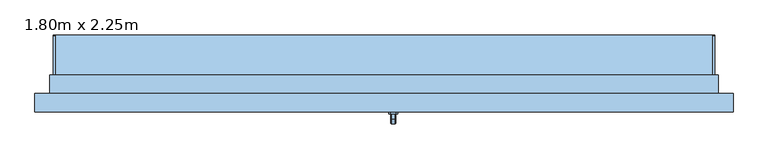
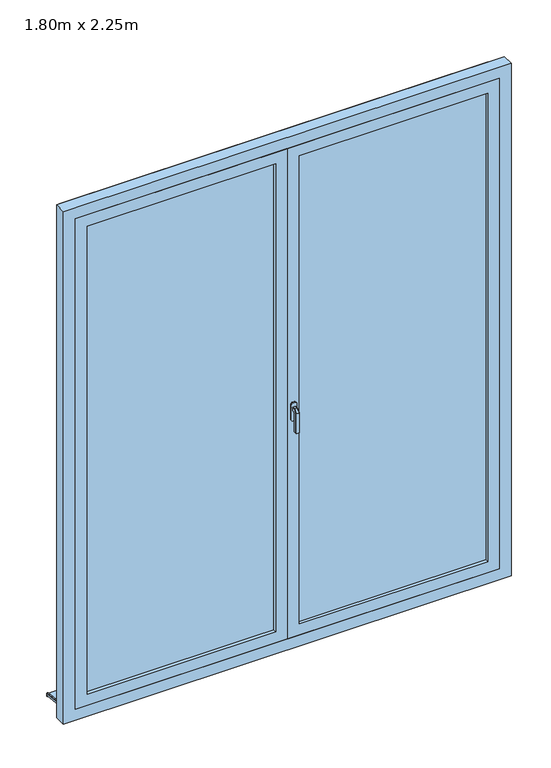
"""IFC4 building model written with IfcOpenShell, lengths in millimetres: window geometry, PF 2 Vantaux - Droits : 1.80m x 2.25m."""

import ifcopenshell
import ifcopenshell.guid

model = None  # the IFC model being written
_history = None  # IfcOwnerHistory: only IFC2X3 demands one
_inside = {}  # id of a spatial element -> (the spatial element, [elements in it])
_under = {}  # id of a project, library or spatial element -> (it, [spatial elements below it])
_declared = {}  # id of a project -> (the project, [libraries it declares])
_typed = {}  # id of a type object -> (the type object, [elements of that type])
_made_of = {}  # id of a material, layer set ... -> (it, [elements and type objects made of it])


def new_model(schema):
    """Start an empty IFC model of exactly this schema.

    Asked for "IFC4X3", IfcOpenShell would pick the latest addendum, in which some entities
    have other attributes; the version numbers below select the first issue.
    IFC2X3 requires an IfcOwnerHistory on every rooted entity: one is made here for all.
    """
    global model, _history
    if schema == "IFC4X3":
        model = ifcopenshell.file(schema_version=(4, 3, 0, 0))
    else:
        model = ifcopenshell.file(schema=schema)
    _inside.clear()
    _under.clear()
    _declared.clear()
    _typed.clear()
    _made_of.clear()
    _history = None
    if model.schema == "IFC2X3":
        org = make("IfcOrganization", Name="unknown")
        user = make(
            "IfcPersonAndOrganization",
            ThePerson=make("IfcPerson", FamilyName="unknown"),
            TheOrganization=org,
        )
        app = make(
            "IfcApplication",
            ApplicationDeveloper=org,
            Version="unknown",
            ApplicationFullName="unknown",
            ApplicationIdentifier="unknown",
        )
        _history = make(
            "IfcOwnerHistory",
            OwningUser=user,
            OwningApplication=app,
            ChangeAction="ADDED",
            CreationDate=0,
        )
    return model


def make(cls, **values):
    """One entity of the class cls with the attributes given. An attribute that is None is left unset."""
    return model.create_entity(
        cls, **{name: value for name, value in values.items() if value is not None}
    )


def rooted(cls, **values):
    """An entity with a GlobalId (a new one), such as an element, a storey or a relation."""
    return make(cls, GlobalId=ifcopenshell.guid.new(), OwnerHistory=_history, **values)


def si_unit(unit_type, name, prefix=None):
    """IfcSIUnit, for example si_unit("LENGTHUNIT", "METRE", prefix="MILLI")."""
    return make("IfcSIUnit", UnitType=unit_type, Prefix=prefix, Name=name)


def assignment(units):
    """IfcUnitAssignment: the units of a project."""
    return None if units is None else make("IfcUnitAssignment", Units=units)


def point(xyz):
    """IfcCartesianPoint."""
    return None if xyz is None else make("IfcCartesianPoint", Coordinates=xyz)


def direction(xyz):
    """IfcDirection."""
    return None if xyz is None else make("IfcDirection", DirectionRatios=xyz)


def frame(location, z_axis=None, x_axis=None):
    """IfcAxis2Placement3D, a coordinate frame: its origin and axes. An axis left out is left unset."""
    return make(
        "IfcAxis2Placement3D",
        Location=point(location),
        Axis=direction(z_axis),
        RefDirection=direction(x_axis),
    )


def frame_2d(location, x_axis=None):
    """IfcAxis2Placement2D, a coordinate frame in the plane: its origin and x axis."""
    return make(
        "IfcAxis2Placement2D", Location=point(location), RefDirection=direction(x_axis)
    )


def origin():
    """The frame at (0, 0, 0) with its axes left unset."""
    return frame((0.0, 0.0, 0.0))


def place(relative_to, where):
    """IfcLocalPlacement: puts the frame where relative to a parent placement (None: the world)."""
    return make(
        "IfcLocalPlacement", PlacementRelTo=relative_to, RelativePlacement=where
    )


def context(
    kind, dimensions, precision=None, world=None, true_north=None, identifier=None
):
    """IfcGeometricRepresentationContext, for example the 3D "Model" context."""
    return make(
        "IfcGeometricRepresentationContext",
        ContextIdentifier=identifier,
        ContextType=kind,
        CoordinateSpaceDimension=dimensions,
        Precision=precision,
        WorldCoordinateSystem=world,
        TrueNorth=true_north,
    )


def project(units=None, contexts=None):
    """IfcProject with its units and contexts."""
    return rooted(
        "IfcProject",
        Name="project",
        RepresentationContexts=contexts,
        UnitsInContext=assignment(units),
    )


def spatial(cls, under=None, at=None, **own):
    """A site, building, storey or space (cls), placed at a placement, below another one or the project."""
    s = rooted(cls, ObjectPlacement=at, **own)
    if under is not None:
        _under.setdefault(under.id(), (under, []))[1].append(s)
    return s


def polyline(points):
    """IfcPolyline through the points."""
    return make("IfcPolyline", Points=[point(p) for p in points])


def circle_curve(where, radius):
    """IfcCircle in the frame where."""
    return make("IfcCircle", Position=where, Radius=radius)


def trimmed(basis, trim1, trim2, sense, master):
    """IfcTrimmedCurve: the piece of a basis curve between two trims."""
    return make(
        "IfcTrimmedCurve",
        BasisCurve=basis,
        Trim1=trim1,
        Trim2=trim2,
        SenseAgreement=sense,
        MasterRepresentation=master,
    )


def segment(curve, same_sense, transition):
    """IfcCompositeCurveSegment."""
    return make(
        "IfcCompositeCurveSegment",
        Transition=transition,
        SameSense=same_sense,
        ParentCurve=curve,
    )


def composite_curve(segments, self_intersect=None):
    """IfcCompositeCurve: segments joined end to end."""
    return make("IfcCompositeCurve", Segments=segments, SelfIntersect=self_intersect)


def outline(outer, holes=None, kind="AREA"):
    """IfcArbitraryClosedProfileDef: a profile drawn as a closed curve; with holes, ...WithVoids."""
    if holes is None:
        return make("IfcArbitraryClosedProfileDef", ProfileType=kind, OuterCurve=outer)
    return make(
        "IfcArbitraryProfileDefWithVoids",
        ProfileType=kind,
        OuterCurve=outer,
        InnerCurves=holes,
    )


def extrude(swept, where, along, depth):
    """IfcExtrudedAreaSolid: the profile swept, set in the frame where, extruded along a direction by depth."""
    return make(
        "IfcExtrudedAreaSolid",
        SweptArea=swept,
        Position=where,
        ExtrudedDirection=direction(along),
        Depth=depth,
    )


def faces_of(points, faces, orient=None, outer=None):
    """IfcFace entities. A face is a list of loops; a loop is a list of indices into points, from 0.

    orient and outer hold one flag for each loop. By default every Orientation is true, the
    first loop of a face is its IfcFaceOuterBound and the others are IfcFaceBound.
    """
    made = []
    for i, loops in enumerate(faces):
        bounds = []
        for j, loop in enumerate(loops):
            is_outer = j == 0 if outer is None else outer[i][j]
            bounds.append(
                make(
                    "IfcFaceOuterBound" if is_outer else "IfcFaceBound",
                    Bound=make("IfcPolyLoop", Polygon=[points[k] for k in loop]),
                    Orientation=True if orient is None else orient[i][j],
                )
            )
        made.append(make("IfcFace", Bounds=bounds))
    return made


def faceted_brep(points, faces, orient=None, outer=None, voids=None):
    """IfcFacetedBrep: a solid bounded by flat faces; with voids (closed shells), ...WithVoids."""
    shared = [point(p) for p in points]
    hull = make("IfcClosedShell", CfsFaces=faces_of(shared, faces, orient, outer))
    if voids is None:
        return make("IfcFacetedBrep", Outer=hull)
    return make(
        "IfcFacetedBrepWithVoids",
        Outer=hull,
        Voids=[
            make(cls, CfsFaces=faces_of(shared, fs, o, b)) for cls, fs, o, b in voids
        ],
    )


def shape(context_of_items, identifier, shape_type, items):
    """IfcShapeRepresentation: the items that make up one representation, for example the "Body"."""
    return make(
        "IfcShapeRepresentation",
        ContextOfItems=context_of_items,
        RepresentationIdentifier=identifier,
        RepresentationType=shape_type,
        Items=items,
    )


def source(mapping_origin, context_of_items, identifier, shape_type, items):
    """IfcRepresentationMap: a shape defined once, which mapped items show again and again."""
    return make(
        "IfcRepresentationMap",
        MappingOrigin=mapping_origin,
        MappedRepresentation=shape(context_of_items, identifier, shape_type, items),
    )


def transform(
    local_origin,
    x_axis=None,
    y_axis=None,
    z_axis=None,
    scale=None,
    scale2=None,
    scale3=None,
    uniform=True,
):
    """IfcCartesianTransformationOperator3D, or its non-uniform kind. x_axis, y_axis, z_axis: its Axis1, 2, 3."""
    if uniform:
        return make(
            "IfcCartesianTransformationOperator3D",
            Axis1=direction(x_axis),
            Axis2=direction(y_axis),
            LocalOrigin=point(local_origin),
            Scale=scale,
            Axis3=direction(z_axis),
        )
    return make(
        "IfcCartesianTransformationOperator3DnonUniform",
        Axis1=direction(x_axis),
        Axis2=direction(y_axis),
        LocalOrigin=point(local_origin),
        Scale=scale,
        Axis3=direction(z_axis),
        Scale2=scale2,
        Scale3=scale3,
    )


def mapped(mapping_source, mapping_target):
    """IfcMappedItem: shows the shape of a source again, moved by a transform."""
    return make(
        "IfcMappedItem", MappingSource=mapping_source, MappingTarget=mapping_target
    )


def made_of(thing, what):
    """Note that an element or type object is made of a material, layer set ...; save() writes the relation."""
    if what is not None:
        _made_of.setdefault(what.id(), (what, []))[1].append(thing)
    return thing


def element(
    cls,
    number,
    at=None,
    inside=None,
    cuts=None,
    type_object=None,
    material=None,
    context=None,
    identifier="Body",
    shape_type=None,
    held_by="IfcProductDefinitionShape",
    body=None,
    shapes=None,
    **own,
):
    """One element of the class cls, such as IfcWall. Its Tag is "e" and its number.

    at: its placement. inside: the storey or other place that contains it. cuts: it is an
    opening in that element (IfcRelVoidsElement). A single representation is given by context,
    identifier, shape_type and body (its items); several are given by shapes. held_by: the class
    of the entity that holds the representations. save() writes the other relations.
    """
    e = rooted(cls, Tag="e%d" % number, ObjectPlacement=at, **own)
    if body is not None:
        shapes = [shape(context, identifier, shape_type, body)]
    if shapes is not None:
        e.Representation = make(held_by, Representations=shapes)
    if inside is not None:
        _inside.setdefault(inside.id(), (inside, []))[1].append(e)
    if cuts is not None:
        rooted(
            "IfcRelVoidsElement", RelatingBuildingElement=cuts, RelatedOpeningElement=e
        )
    if type_object is not None:
        _typed.setdefault(type_object.id(), (type_object, []))[1].append(e)
    return made_of(e, material)


def aggregate(whole, parts):
    """IfcRelAggregates: a whole, such as a stair, and the parts it consists of."""
    return rooted("IfcRelAggregates", RelatingObject=whole, RelatedObjects=parts)


def save(model, path):
    """Write the relations noted so far, then the file.

    IfcRelAggregates (storeys below a building ...), IfcRelContainedInSpatialStructure (elements
    in a storey), IfcRelDefinesByType, IfcRelAssociatesMaterial and IfcRelDeclares: one each for
    every whole, place, type object, material and project.
    """
    for whole, parts in _under.values():
        aggregate(whole, parts)
    for where, things in _inside.values():
        rooted(
            "IfcRelContainedInSpatialStructure",
            RelatedElements=things,
            RelatingStructure=where,
        )
    for kind, things in _typed.values():
        rooted("IfcRelDefinesByType", RelatedObjects=things, RelatingType=kind)
    for what, things in _made_of.values():
        rooted("IfcRelAssociatesMaterial", RelatedObjects=things, RelatingMaterial=what)
    for by, libraries in _declared.values():
        rooted("IfcRelDeclares", RelatingContext=by, RelatedDefinitions=libraries)
    model.write(path)


def window_1_80m_x_2_25m_241c93e5(model_context):
    return source(origin(), model_context, "Body", "SolidModel", [
        faceted_brep([(30.6460097, -106.0, 1122.0339292), (32.0339292, -106.0, 1120.6460097), (32.0339292, -106.0, 1109.3323012), (30.6676988, -106.0, 1107.9660708), (19.3323012, -106.0, 1107.9660708), (17.9660708, -106.0, 1109.3323012), (17.9660708, -106.0, 1120.6460097), (19.3539903, -106.0, 1122.0339292), (30.6460097, -118.9135489, 1122.0339292), (32.0339292, -118.3386538, 1120.6460097), (32.0339292, -131.6460097, 1107.3386538), (32.0339292, -131.6460097, 1020.0), (32.0339292, -120.3323012, 1020.0), (32.0339292, -120.3323012, 1102.6523623), (32.0339292, -113.6523623, 1109.3323012), (30.6676988, -113.0864511, 1107.9660708), (19.3323012, -113.0864511, 1107.9660708), (17.9660708, -113.6523623, 1109.3323012), (17.9660708, -120.3323012, 1102.6523623), (17.9660708, -120.3323012, 1020.0), (17.9660708, -131.6460097, 1020.0), (17.9660708, -131.6460097, 1107.3386538), (17.9660708, -118.3386538, 1120.6460097), (19.3539903, -118.9135489, 1122.0339292), (30.6460097, -133.0339292, 1107.9135489), (30.6676988, -118.9660708, 1102.0864511), (19.3323012, -118.9660708, 1102.0864511), (19.3539903, -133.0339292, 1107.9135489), (30.6460097, -133.0339292, 1020.0), (19.3539903, -133.0339292, 1020.0), (19.3323012, -118.9660708, 1020.0), (30.6676988, -118.9660708, 1020.0)], [[[0, 1, 2, 3, 4, 5, 6, 7]], [[1, 0, 8, 9]], [[2, 1, 9, 10, 11, 12, 13, 14]], [[3, 2, 14, 15]], [[4, 3, 15, 16]], [[5, 4, 16, 17]], [[6, 5, 17, 18, 19, 20, 21, 22]], [[7, 6, 22, 23]], [[0, 7, 23, 8]], [[9, 8, 24, 10]], [[15, 14, 13, 25]], [[16, 15, 25, 26]], [[17, 16, 26, 18]], [[23, 22, 21, 27]], [[8, 23, 27, 24]], [[28, 29, 20, 19, 30, 31, 12, 11]], [[10, 24, 28, 11]], [[25, 13, 12, 31]], [[26, 25, 31, 30]], [[18, 26, 30, 19]], [[27, 21, 20, 29]], [[24, 27, 29, 28]]]),
        extrude(outline(polyline([(1140.0, 32.0), (1140.0, 18.0), (1135.0, 13.0), (1065.0, 13.0), (1060.0, 18.0), (1060.0, 32.0), (1065.0, 37.0), (1135.0, 37.0), (1140.0, 32.0)])), frame((0.0, -106.0, 0.0), z_axis=(0.0, 1.0, 0.0), x_axis=(0.0, 0.0, 1.0)), (0.0, 0.0, 1.0), 6.0),
        extrude(outline(polyline([(110.0288776, 26.588626), (110.0288776, 15.5104235), (105.0288776, 16.0359447), (105.0288776, 21.8589354), (-20.0, 35.0), (-20.0, 50.0), (-15.0, 50.0), (-15.0, 39.7296906), (110.0288776, 26.588626)])), frame((-900.0, 0.0, 0.0), z_axis=(1.0, 0.0, 0.0), x_axis=(0.0, 1.0, 0.0)), (0.0, 0.0, 1.0), 1800.0),
        extrude(outline(composite_curve([segment(polyline([(110.0288776, 26.588626), (-15.0, 39.7296906), (-15.0, 44.757232), (106.4469915, 31.9926388)]), True, "CONTINUOUS"), segment(trimmed(circle_curve(frame_2d((106.0288776, 28.0145512)), 4.0), [point((106.4469915, 31.9926388))], [point((110.0288776, 28.0145512))], False, "CARTESIAN"), True, "CONTINUOUS"), segment(polyline([(110.0288776, 28.0145512), (110.0288776, 26.588626)]), True, "CONTINUOUS")], self_intersect=False)), frame((-900.0, 0.0, 0.0), z_axis=(1.0, 0.0, 0.0), x_axis=(0.0, 1.0, 0.0)), (0.0, 0.0, 1.0), 5.0),
        extrude(outline(composite_curve([segment(polyline([(110.0288776, 26.588626), (-15.0, 39.7296906), (-15.0, 44.757232), (106.4469915, 31.9926388)]), True, "CONTINUOUS"), segment(trimmed(circle_curve(frame_2d((106.0288776, 28.0145512)), 4.0), [point((106.4469915, 31.9926388))], [point((110.0288776, 28.0145512))], False, "CARTESIAN"), True, "CONTINUOUS"), segment(polyline([(110.0288776, 28.0145512), (110.0288776, 26.588626)]), True, "CONTINUOUS")], self_intersect=False)), frame((895.0, 0.0, 0.0), z_axis=(1.0, 0.0, 0.0), x_axis=(0.0, 1.0, 0.0)), (0.0, 0.0, 1.0), 5.0),
        extrude(outline(polyline([(85.0, 0.0), (2285.0, 0.0), (2285.0, -900.0), (85.0, -900.0), (85.0, 0.0)]), holes=[polyline([(135.0, -850.0), (2235.0, -850.0), (2235.0, -50.0), (135.0, -50.0), (135.0, -850.0)])]), frame((0.0, -100.0, 0.0), z_axis=(0.0, 1.0, 0.0), x_axis=(0.0, 0.0, 1.0)), (0.0, 0.0, 1.0), 40.0),
        extrude(outline(polyline([(50.0, -74.0), (850.0, -74.0), (850.0, -86.0), (50.0, -86.0), (50.0, -74.0)])), frame((0.0, 0.0, 135.0), z_axis=(0.0, 0.0, 1.0), x_axis=(1.0, 0.0, 0.0)), (0.0, 0.0, 1.0), 2100.0),
        extrude(outline(polyline([(-850.0, -74.0), (-50.0, -74.0), (-50.0, -86.0), (-850.0, -86.0), (-850.0, -74.0)])), frame((0.0, 0.0, 135.0), z_axis=(0.0, 0.0, 1.0), x_axis=(1.0, 0.0, 0.0)), (0.0, 0.0, 1.0), 2100.0),
        extrude(outline(polyline([(85.0, 900.0), (2285.0, 900.0), (2285.0, 0.0), (85.0, 0.0), (85.0, 900.0)]), holes=[polyline([(135.0, 50.0), (2235.0, 50.0), (2235.0, 850.0), (135.0, 850.0), (135.0, 50.0)])]), frame((0.0, -100.0, 0.0), z_axis=(0.0, 1.0, 0.0), x_axis=(0.0, 0.0, 1.0)), (0.0, 0.0, 1.0), 40.0),
        extrude(outline(polyline([(35.0, -910.0), (35.0, -900.0), (2285.0, -900.0), (2285.0, 900.0), (35.0, 900.0), (35.0, 910.0), (2295.0, 910.0), (2295.0, -910.0), (35.0, -910.0)])), frame((0.0, -50.0, 0.0), z_axis=(0.0, 1.0, 0.0), x_axis=(0.0, 0.0, 1.0)), (0.0, 0.0, 1.0), 50.0),
        faceted_brep([(-950.0, -100.0, 35.0), (-950.0, -50.0, 35.0), (-900.0, -50.0, 35.0), (-900.0, -20.0, 35.0), (900.0, -20.0, 35.0), (900.0, -50.0, 35.0), (950.0, -50.0, 35.0), (950.0, -100.0, 35.0), (-950.0, -100.0, 2335.0), (-950.0, -50.0, 2335.0), (950.0, -50.0, 2335.0), (900.0, -50.0, 74.3761425), (-900.0, -50.0, 74.3761425), (-885.0, -50.0, 2270.0), (-885.0, -50.0, 100.0), (885.0, -50.0, 100.0), (885.0, -50.0, 2270.0), (-900.0, 0.0, 60.9786829), (-900.0, 0.0, 45.0), (-900.0, -10.0, 45.0), (-900.0, -10.0, 50.0), (-900.0, -20.0, 50.0), (900.0, -20.0, 50.0), (900.0, -10.0, 50.0), (900.0, -10.0, 45.0), (900.0, 0.0, 45.0), (900.0, 0.0, 60.9786829), (950.0, -100.0, 2335.0), (900.0, -100.0, 2285.0), (900.0, -100.0, 85.0), (-900.0, -100.0, 85.0), (-900.0, -100.0, 2285.0), (-885.0, -60.0, 2270.0), (-885.0, -60.0, 100.0), (885.0, -60.0, 100.0), (885.0, -60.0, 2270.0), (900.0, -60.0, 2285.0), (-900.0, -60.0, 2285.0), (-900.0, -60.0, 85.0), (900.0, -60.0, 85.0)], [[[0, 1, 2, 3, 4, 5, 6, 7]], [[1, 0, 8, 9]], [[1, 9, 10, 6, 5, 11, 12, 2], [13, 14, 15, 16]], [[12, 17, 18, 19, 20, 21, 3, 2]], [[3, 21, 22, 4]], [[4, 22, 23, 24, 25, 26, 11, 5]], [[6, 10, 27, 7]], [[0, 7, 27, 8], [28, 29, 30, 31]], [[13, 32, 33, 14]], [[33, 34, 15, 14]], [[35, 16, 15, 34]], [[17, 12, 11, 26]], [[36, 37, 38, 39], [32, 35, 34, 33]], [[38, 37, 31, 30]], [[30, 29, 39, 38]], [[28, 36, 39, 29]], [[18, 17, 26, 25]], [[19, 18, 25, 24]], [[20, 19, 24, 23]], [[21, 20, 23, 22]], [[13, 16, 35, 32]], [[37, 36, 28, 31]], [[10, 9, 8, 27]]]),
        extrude(outline(polyline([(20.0, -52.0), (20.0, -60.0), (-20.0, -60.0), (-20.0, -52.0), (20.0, -52.0)])), frame((0.0, 0.0, 100.0), z_axis=(0.0, 0.0, 1.0), x_axis=(1.0, 0.0, 0.0)), (0.0, 0.0, 1.0), 2170.0),
    ])


if __name__ == "__main__":
    model = new_model("IFC4")
    model_context = context("Model", 3, world=origin())
    ifc_project = project(units=[si_unit("LENGTHUNIT", "METRE", prefix="MILLI")], contexts=[model_context])
    site = spatial("IfcSite", under=ifc_project)
    building = spatial("IfcBuilding", under=site)
    placement = place(None, origin())
    window_1_80m_x_2_25m_shape = window_1_80m_x_2_25m_241c93e5(model_context)
    element("IfcWindow", 1, ObjectType="PF 2 Vantaux - Droits : 1.80m x 2.25m", at=placement, inside=building, context=model_context, shape_type="MappedRepresentation", body=[
        mapped(window_1_80m_x_2_25m_shape, transform((0.0, 0.0, 0.0), x_axis=(1.0, 0.0, 0.0), y_axis=(0.0, 1.0, 0.0), z_axis=(0.0, 0.0, 1.0))),
    ])
    save(model, "model.ifc")
